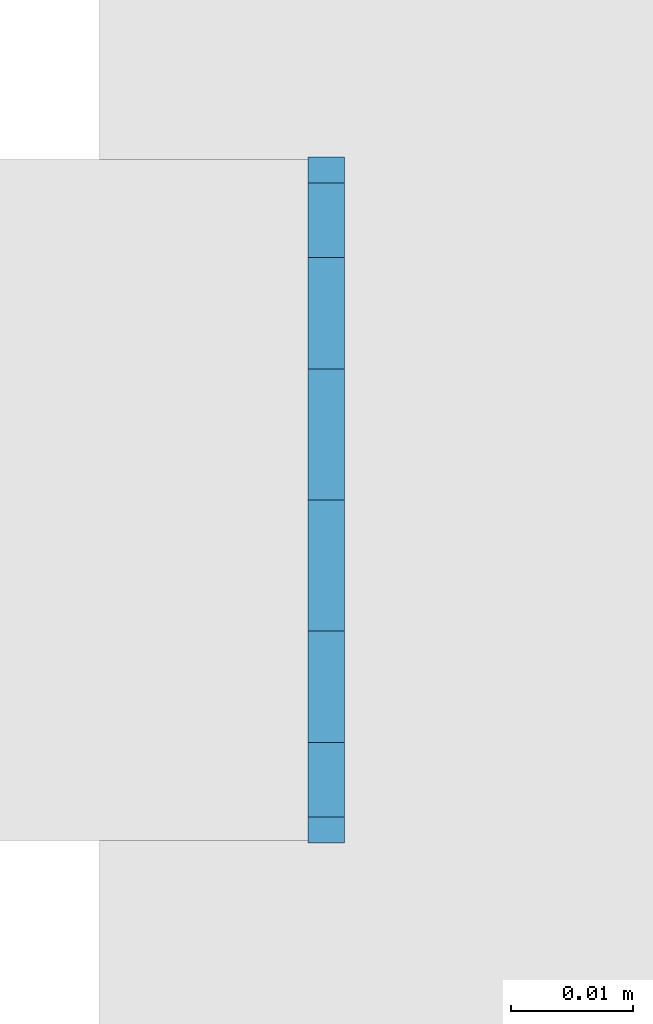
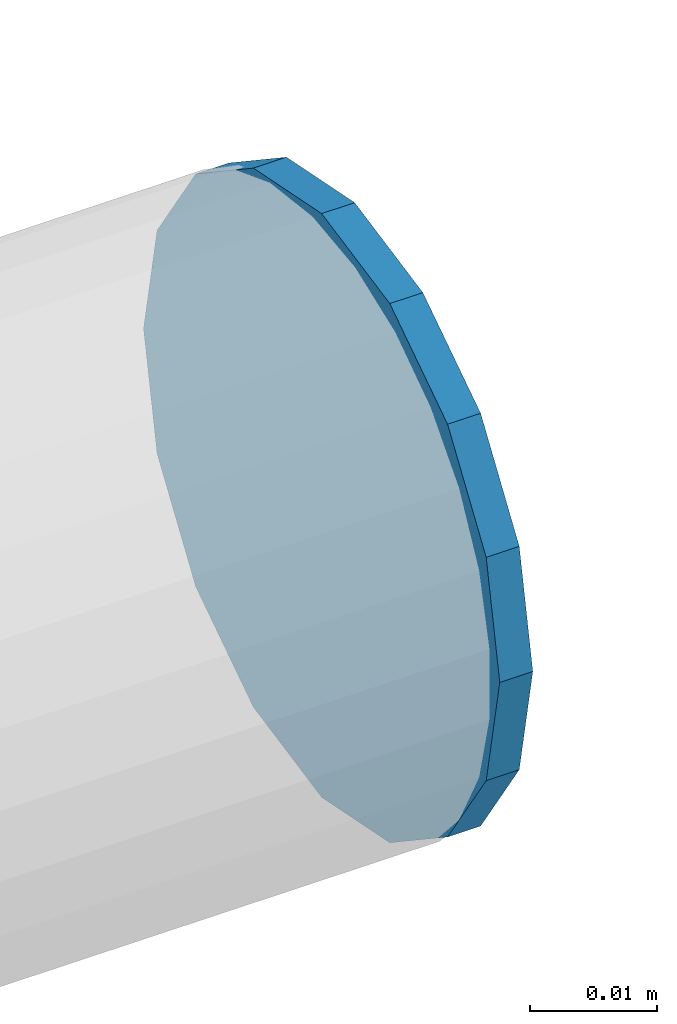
# One storey, part 58 of 186: 1 beam.
"""IFC4X3_ADD2 building model written with IfcOpenShell, lengths in millimetres."""

from ifc_helpers import new_model, si_unit, direction, frame, origin_with_axes, place, context, subcontext, project, spatial, indexed_curve, outline, extrude, material, element, save


model = new_model("IFC4X3_ADD2")

# Units and contexts
model_context = context("Model", 3, precision=1e-05, world=origin_with_axes(), true_north=direction((0.0, 1.0)))
body_context = subcontext(model_context, "Body", "Model", "MODEL_VIEW")
ifc_project = project(units=[si_unit("LENGTHUNIT", "METRE", prefix="MILLI"), si_unit("AREAUNIT", "SQUARE_METRE"), si_unit("VOLUMEUNIT", "CUBIC_METRE"), si_unit("PLANEANGLEUNIT", "RADIAN"), si_unit("TIMEUNIT", "SECOND"), si_unit("MASSUNIT", "GRAM")], contexts=[model_context])

# Site, building, storey
site_placement = place(None, origin_with_axes())
site = spatial("IfcSite", under=ifc_project, at=site_placement, Name="Site", CompositionType="ELEMENT")
building_placement = place(site_placement, origin_with_axes())
building = spatial("IfcBuilding", under=site, at=building_placement, Name="IFC Building Story")
storey_placement = place(building_placement, frame((0.0, 0.0, 4370.0), z_axis=(0.0, 0.0, 1.0), x_axis=(1.0, 0.0, 0.0)))
storey = spatial("IfcBuildingStorey", under=building, at=storey_placement, Name="ETAGE 10 (1)", Elevation=4370.0)

# Beam
ifc_material = material(Name="STEEL/Accessory 22919")
beam_placement = place(storey_placement, frame((10951.1886362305, 349.999963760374, 1333.48), z_axis=(-1.0, 0.0, 0.0), x_axis=(0.0, 0.5555702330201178, 0.8314696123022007)))
element("IfcBeam", 1, at=beam_placement, inside=storey, material=ifc_material, Name="TA4", ObjectType="D56", context=body_context, shape_type="SweptSolid", body=[
    extrude(outline(indexed_curve([(23.28114914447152, 15.55596652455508), (27.46198785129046, 5.462529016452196), (27.46198785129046, -5.462529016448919), (23.28114914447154, -15.55596652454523), (15.55596652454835, -23.28114914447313), (5.462529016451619, -27.46198785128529), (-5.462529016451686, -27.46198785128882), (-15.55596652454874, -23.28114914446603), (-23.2811491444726, -15.55596652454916), (-27.46198785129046, -5.462529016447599), (-27.46198785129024, 5.462529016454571), (-23.28114914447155, 15.55596652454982), (-15.55596652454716, 23.28114914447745), (-5.462529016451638, 27.46198785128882), (5.462529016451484, 27.46198785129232), (15.55596652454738, 23.28114914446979), (23.28114914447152, 15.55596652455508)])), origin_with_axes(), (0.0, 0.0, 1.0), 3.0),
])

save(model, "model.ifc")
